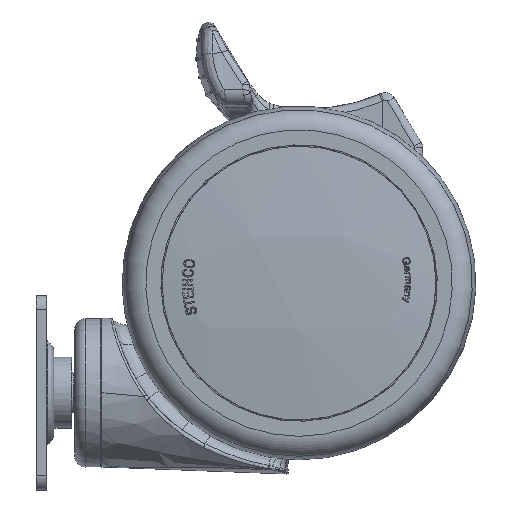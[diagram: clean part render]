
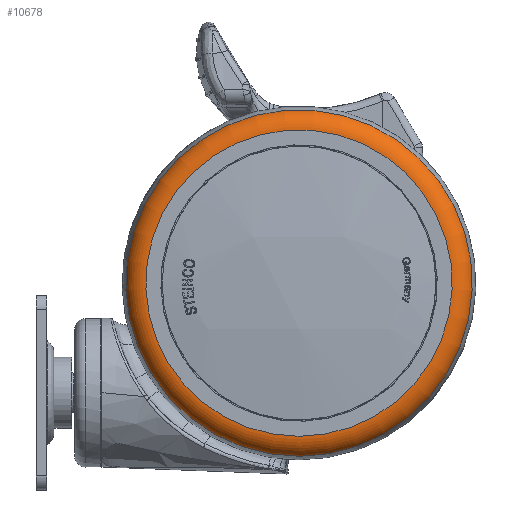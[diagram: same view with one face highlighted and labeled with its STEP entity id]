
A CAD part, left-side view. The second image highlights one B-rep face of the part: STEP entity #10678.
In plain terms, the highlighted toroidal (fillet/blend) face has major radius 43.314 mm and minor radius 6 mm.
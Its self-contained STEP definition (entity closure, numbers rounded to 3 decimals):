
#808=TOROIDAL_SURFACE('',#11684,43.314,6.);
#2384=FACE_OUTER_BOUND('',#3071,.T.);
#3071=EDGE_LOOP('',(#8996,#8997,#8998,#8999,#9000,#9001));
#3693=CIRCLE('',#11679,43.314);
#3694=CIRCLE('',#11680,43.314);
#3697=CIRCLE('',#11685,6.);
#3698=CIRCLE('',#11686,48.971);
#3699=CIRCLE('',#11687,48.971);
#4648=VERTEX_POINT('',#30684);
#4649=VERTEX_POINT('',#30685);
#4652=VERTEX_POINT('',#30694);
#4653=VERTEX_POINT('',#30696);
#6116=EDGE_CURVE('',#4648,#4649,#3693,.F.);
#6117=EDGE_CURVE('',#4649,#4648,#3694,.F.);
#6120=EDGE_CURVE('',#4649,#4652,#3697,.T.);
#6121=EDGE_CURVE('',#4653,#4652,#3698,.F.);
#6122=EDGE_CURVE('',#4652,#4653,#3699,.F.);
#8996=ORIENTED_EDGE('',*,*,#6116,.T.);
#8997=ORIENTED_EDGE('',*,*,#6120,.T.);
#8998=ORIENTED_EDGE('',*,*,#6121,.F.);
#8999=ORIENTED_EDGE('',*,*,#6122,.F.);
#9000=ORIENTED_EDGE('',*,*,#6120,.F.);
#9001=ORIENTED_EDGE('',*,*,#6117,.T.);
#10678=ADVANCED_FACE('',(#2384),#808,.T.);
#11679=AXIS2_PLACEMENT_3D('',#30686,#13944,#13945);
#11680=AXIS2_PLACEMENT_3D('',#30687,#13946,#13947);
#11684=AXIS2_PLACEMENT_3D('',#30693,#13954,#13955);
#11685=AXIS2_PLACEMENT_3D('',#30695,#13956,#13957);
#11686=AXIS2_PLACEMENT_3D('',#30697,#13958,#13959);
#11687=AXIS2_PLACEMENT_3D('',#30698,#13960,#13961);
#13944=DIRECTION('center_axis',(-1.,0.,0.));
#13945=DIRECTION('ref_axis',(0.,0.999,-0.04));
#13946=DIRECTION('center_axis',(-1.,0.,0.));
#13947=DIRECTION('ref_axis',(0.,0.999,-0.04));
#13954=DIRECTION('center_axis',(-1.,0.,0.));
#13955=DIRECTION('ref_axis',(0.,0.,1.));
#13956=DIRECTION('center_axis',(0.,-1.,0.));
#13957=DIRECTION('ref_axis',(0.,0.,-1.));
#13958=DIRECTION('center_axis',(-1.,0.,0.));
#13959=DIRECTION('ref_axis',(0.,0.999,-0.04));
#13960=DIRECTION('center_axis',(-1.,0.,0.));
#13961=DIRECTION('ref_axis',(0.,0.999,-0.04));
#30684=CARTESIAN_POINT('',(-36.7,-31.022,29.249));
#30685=CARTESIAN_POINT('',(-36.7,-74.3,-12.314));
#30686=CARTESIAN_POINT('Origin',(-36.7,-74.3,31.));
#30687=CARTESIAN_POINT('Origin',(-36.7,-74.3,31.));
#30693=CARTESIAN_POINT('Origin',(-30.7,-74.3,31.));
#30694=CARTESIAN_POINT('',(-32.7,-74.3,-17.971));
#30695=CARTESIAN_POINT('Origin',(-30.7,-74.3,-12.314));
#30696=CARTESIAN_POINT('',(-32.7,-25.369,29.02));
#30697=CARTESIAN_POINT('Origin',(-32.7,-74.3,31.));
#30698=CARTESIAN_POINT('Origin',(-32.7,-74.3,31.));
